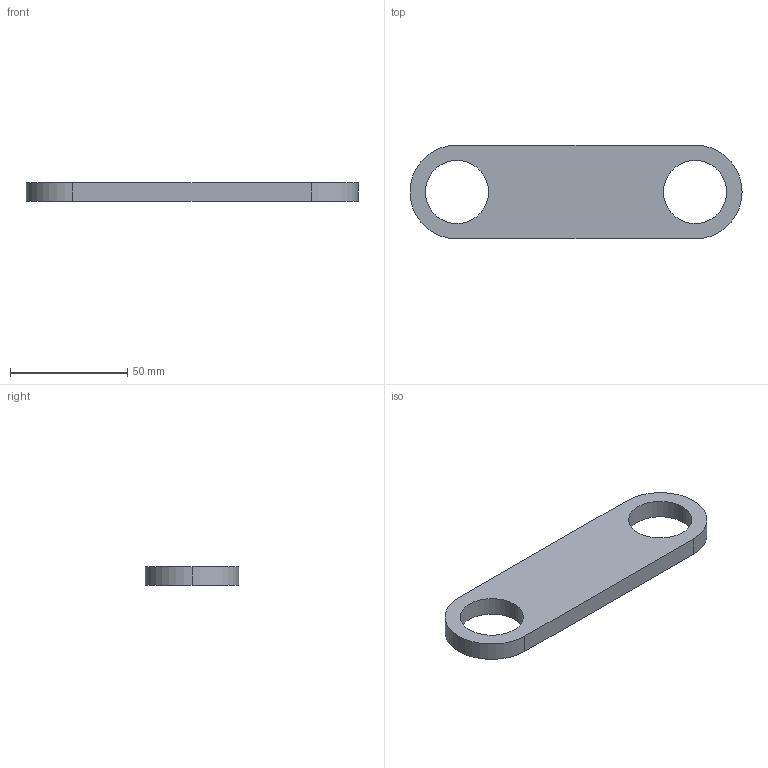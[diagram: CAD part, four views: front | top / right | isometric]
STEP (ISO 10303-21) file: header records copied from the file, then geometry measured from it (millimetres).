
FILE_DESCRIPTION (( 'STEP AP214' ), '1' );
FILE_NAME ('27dia side.STEP', '2018-04-22T04:24:58', ( '' ), ( '' ), 'SwSTEP 2.0', 'SolidWorks 2018', '' );
FILE_SCHEMA (( 'AUTOMOTIVE_DESIGN' ));
Length unit declared in the file: millimetre
Products named in the file (1): 27dia side
Bounding box: 141.6 x 40 x 8 mm (x, y, z)
Volume: 33404.2 mm3; surface area: 12339.1 mm2
Topology: 1 solids, 1 shells, 11 faces, 27 edges, 18 vertices
Faces by surface type: cylinder 7, plane 4
Entity records: 377 total; most frequent: DIRECTION 65, CARTESIAN_POINT 57, ORIENTED_EDGE 54, EDGE_CURVE 27, AXIS2_PLACEMENT_3D 26, VERTEX_POINT 18, EDGE_LOOP 15, CIRCLE 14
